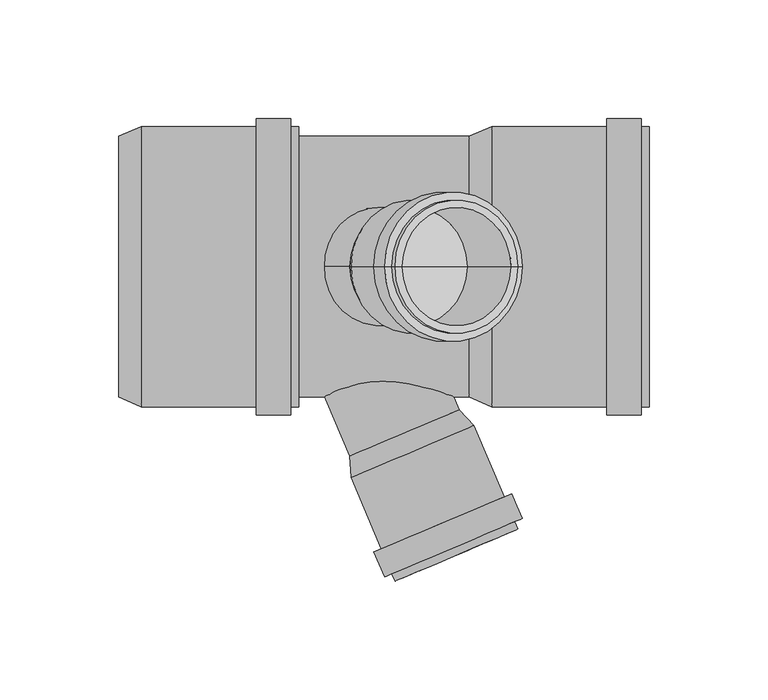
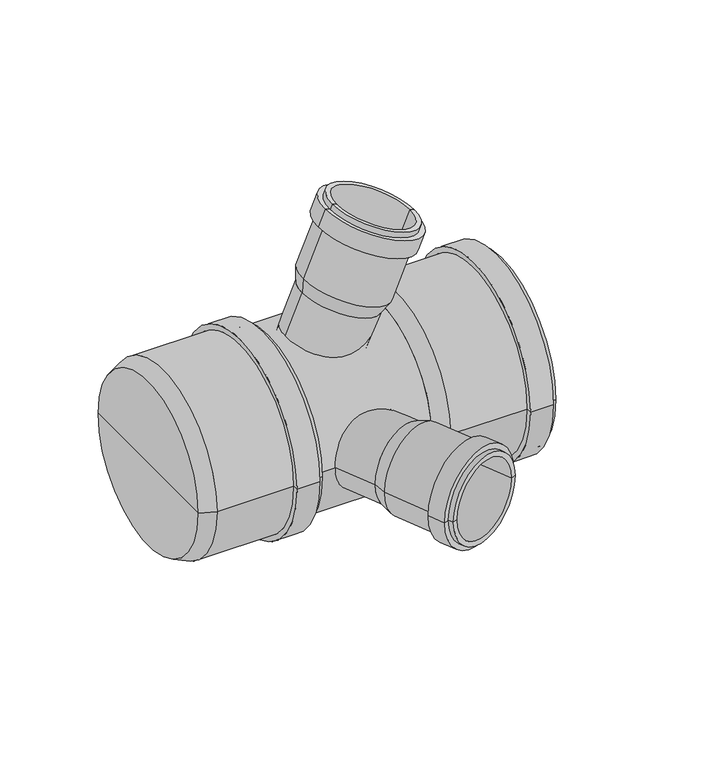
"""IFC4 building model written with IfcOpenShell, lengths in millimetres: pipe fitting geometry, pf_HTED : pf_HTED."""

from ifc_helpers import new_model, si_unit, point, frame, origin, origin_2d, place, context, project, spatial, polyline, circle_curve, trimmed, segment, composite_curve, outline, extrude, source, transform, mapped, element, save
from ifc_brep_helpers import plane_surface, cylinder_surface, revolved_surface, advanced_brep


def pipe_fitting_ae554451(model_context):
    return source(origin(), model_context, "Body", "SolidModel", [
        advanced_brep(
        [(52.7863333, 0.0, 60.3741916), (6.7610907, 0.0, 79.910748), (7.2287402, 0.0, 88.9463058), (58.961113, 0.0, 66.9872164), (29.773712, 0.0, 70.1424698), (77.5208416, 0.0, 110.7111969), (25.7884688, 0.0, 132.6702863), (28.6420338, 0.0, 131.4590198), (74.6672765, 0.0, 111.9224634), (76.1923557, 0.0, 107.5814804), (24.459983, 0.0, 129.5405698), (79.3220722, 0.0, 106.2529946), (21.3302665, 0.0, 130.8690557), (74.8677374, 0.0, 95.7592392), (16.8759316, 0.0, 120.3753003), (71.7380209, 0.0, 97.0877251), (20.0056481, 0.0, 119.0468145), (56.1075479, 0.0, 68.1984829), (10.0823052, 0.0, 87.7350393), (33.0949266, 0.0, 77.9667611)],
        [
            (0, 1, circle_curve(frame((29.773712, 0.0, 70.1424698), z_axis=(0.3907311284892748, 0.0, 0.9205048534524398), x_axis=(-0.9205048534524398, 0.0, 0.3907311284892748)), 25.0)),
            (1, 2),
            (2, 3, circle_curve(frame((33.0949266, 0.0, 77.9667611), z_axis=(-0.3907311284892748, 0.0, -0.9205048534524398), x_axis=(-0.9205048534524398, 0.0, 0.3907311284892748)), 28.1)),
            (3, 0),
            (1, 0, circle_curve(frame((29.773712, 0.0, 70.1424698), z_axis=(0.3907311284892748, 0.0, 0.9205048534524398), x_axis=(-0.9205048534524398, 0.0, 0.3907311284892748)), 25.0)),
            (3, 2, circle_curve(frame((33.0949266, 0.0, 77.9667611), z_axis=(-0.3907311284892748, 0.0, -0.9205048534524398), x_axis=(-0.9205048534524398, 0.0, 0.3907311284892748)), 28.1)),
            (4, 1),
            (0, 4),
            (5, 6, circle_curve(frame((51.6546552, 0.0, 121.6907416), z_axis=(0.3907311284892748, 0.0, 0.9205048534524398), x_axis=(-0.9205048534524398, 0.0, 0.3907311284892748)), 28.1)),
            (6, 7),
            (7, 8, circle_curve(frame((51.6546552, 0.0, 121.6907416), z_axis=(-0.3907311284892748, 0.0, -0.9205048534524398), x_axis=(-0.9205048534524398, 0.0, 0.3907311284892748)), 25.0)),
            (8, 5),
            (6, 5, circle_curve(frame((51.6546552, 0.0, 121.6907416), z_axis=(0.3907311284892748, 0.0, 0.9205048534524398), x_axis=(-0.9205048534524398, 0.0, 0.3907311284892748)), 28.1)),
            (8, 7, circle_curve(frame((51.6546552, 0.0, 121.6907416), z_axis=(-0.3907311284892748, 0.0, -0.9205048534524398), x_axis=(-0.9205048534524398, 0.0, 0.3907311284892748)), 25.0)),
            (9, 10, circle_curve(frame((50.3261693, 0.0, 118.5610251), z_axis=(0.3907311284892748, 0.0, 0.9205048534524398), x_axis=(-0.9205048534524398, 0.0, 0.3907311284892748)), 28.1)),
            (10, 6),
            (5, 9),
            (10, 9, circle_curve(frame((50.3261693, 0.0, 118.5610251), z_axis=(0.3907311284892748, 0.0, 0.9205048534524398), x_axis=(-0.9205048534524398, 0.0, 0.3907311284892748)), 28.1)),
            (11, 12, circle_curve(frame((50.3261693, 0.0, 118.5610251), z_axis=(0.3907311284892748, 0.0, 0.9205048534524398), x_axis=(-0.9205048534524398, 0.0, 0.3907311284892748)), 31.5)),
            (12, 10),
            (9, 11),
            (12, 11, circle_curve(frame((50.3261693, 0.0, 118.5610251), z_axis=(0.3907311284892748, 0.0, 0.9205048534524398), x_axis=(-0.9205048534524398, 0.0, 0.3907311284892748)), 31.5)),
            (13, 14, circle_curve(frame((45.8718345, 0.0, 108.0672698), z_axis=(0.3907311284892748, 0.0, 0.9205048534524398), x_axis=(-0.9205048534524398, 0.0, 0.3907311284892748)), 31.5)),
            (14, 12),
            (11, 13),
            (14, 13, circle_curve(frame((45.8718345, 0.0, 108.0672698), z_axis=(0.3907311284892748, 0.0, 0.9205048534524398), x_axis=(-0.9205048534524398, 0.0, 0.3907311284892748)), 31.5)),
            (15, 16, circle_curve(frame((45.8718345, 0.0, 108.0672698), z_axis=(0.3907311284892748, 0.0, 0.9205048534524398), x_axis=(-0.9205048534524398, 0.0, 0.3907311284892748)), 28.1)),
            (16, 14),
            (13, 15),
            (16, 15, circle_curve(frame((45.8718345, 0.0, 108.0672698), z_axis=(0.3907311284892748, 0.0, 0.9205048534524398), x_axis=(-0.9205048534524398, 0.0, 0.3907311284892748)), 28.1)),
            (2, 16),
            (15, 3),
            (17, 18, circle_curve(frame((33.0949266, 0.0, 77.9667611), z_axis=(0.3907311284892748, 0.0, 0.9205048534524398), x_axis=(-0.9205048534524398, 0.0, 0.3907311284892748)), 25.0)),
            (18, 19),
            (19, 17),
            (18, 17, circle_curve(frame((33.0949266, 0.0, 77.9667611), z_axis=(0.3907311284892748, 0.0, 0.9205048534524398), x_axis=(-0.9205048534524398, 0.0, 0.3907311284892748)), 25.0)),
            (7, 18),
            (17, 8),
        ],
        [
            revolved_surface(polyline([(7.2287402, 0.0, 88.9463058), (6.7610907, 0.0, 79.910748)]), (29.773712, 0.0, 70.1424698), (-0.3907311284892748, 0.0, -0.9205048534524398)),
            plane_surface(frame((29.773712, 0.0, 70.1424698), z_axis=(-0.3907311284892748, 0.0, -0.9205048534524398), x_axis=(-0.9205048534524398, 0.0, 0.3907311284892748))),
            plane_surface(frame((51.6546552, 0.0, 121.6907416), z_axis=(0.3907311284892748, 0.0, 0.9205048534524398), x_axis=(-0.9205048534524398, 0.0, 0.3907311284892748))),
            cylinder_surface(frame((29.773712, 0.0, 70.1424698), z_axis=(-0.3907311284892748, 0.0, -0.9205048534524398), x_axis=(-0.9205048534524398, 0.0, 0.3907311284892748)), 28.1),
            plane_surface(frame((50.3261693, 0.0, 118.5610251), z_axis=(0.3907311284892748, 0.0, 0.9205048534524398), x_axis=(-0.9205048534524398, 0.0, 0.3907311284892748))),
            cylinder_surface(frame((29.773712, 0.0, 70.1424698), z_axis=(-0.3907311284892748, 0.0, -0.9205048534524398), x_axis=(-0.9205048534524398, 0.0, 0.3907311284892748)), 31.5),
            plane_surface(frame((45.8718345, 0.0, 108.0672698), z_axis=(-0.3907311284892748, 0.0, -0.9205048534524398), x_axis=(-0.9205048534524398, 0.0, 0.3907311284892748))),
            plane_surface(frame((33.0949266, 0.0, 77.9667611), z_axis=(0.3907311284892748, 0.0, 0.9205048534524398), x_axis=(-0.9205048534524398, 0.0, 0.3907311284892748))),
            revolved_surface(polyline([(10.08230525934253, 0.0, 87.73503927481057), (28.642033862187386, 0.0, 131.45901981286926)]), (29.773712, 0.0, 70.1424698), (-0.3907311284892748, 0.0, -0.9205048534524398)),
        ],
        [
            (0, [[1, 2, 3, 4]]),
            (0, [[5, -4, 6, -2]]),
            (1, [[7, -1, 8]]),
            (1, [[-8, -5, -7]]),
            (2, [[9, 10, 11, 12]]),
            (2, [[13, -12, 14, -10]]),
            (3, [[15, 16, -9, 17]]),
            (3, [[18, -17, -13, -16]]),
            (4, [[19, 20, -15, 21]]),
            (4, [[22, -21, -18, -20]]),
            (5, [[23, 24, -19, 25]]),
            (5, [[26, -25, -22, -24]]),
            (6, [[27, 28, -23, 29]]),
            (6, [[30, -29, -26, -28]]),
            (3, [[-3, 31, -27, 32]]),
            (3, [[-6, -32, -30, -31]]),
            (7, [[33, 34, 35]]),
            (7, [[36, -35, -34]]),
            (8, [[-11, 37, -33, 38]]),
            (8, [[-14, -38, -36, -37]]),
        ],
    ),
        advanced_brep(
        [(6.7610907, -79.910748, 0.0), (52.7863333, -60.3741916, 0.0), (58.961113, -66.9872164, 0.0), (7.2287402, -88.9463058, 0.0), (29.773712, -70.1424698, 0.0), (25.7884688, -132.6702863, 0.0), (77.5208416, -110.7111969, 0.0), (74.6672765, -111.9224634, 0.0), (28.6420338, -131.4590198, 0.0), (24.459983, -129.5405698, 0.0), (76.1923557, -107.5814804, 0.0), (21.3302665, -130.8690557, 0.0), (79.3220722, -106.2529946, 0.0), (16.8759316, -120.3753003, 0.0), (74.8677374, -95.7592392, 0.0), (20.0056481, -119.0468145, 0.0), (71.7380209, -97.0877251, 0.0), (10.0823052, -87.7350393, 0.0), (56.1075479, -68.1984829, 0.0), (33.0949266, -77.9667611, 0.0)],
        [
            (0, 1, circle_curve(frame((29.773712, -70.1424698, 0.0), z_axis=(0.3907311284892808, -0.9205048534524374, 0.0), x_axis=(0.9205048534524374, 0.3907311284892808, 0.0)), 25.0)),
            (1, 2),
            (2, 3, circle_curve(frame((33.0949266, -77.9667611, 0.0), z_axis=(-0.3907311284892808, 0.9205048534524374, 0.0), x_axis=(0.9205048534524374, 0.3907311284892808, 0.0)), 28.1)),
            (3, 0),
            (1, 0, circle_curve(frame((29.773712, -70.1424698, 0.0), z_axis=(0.3907311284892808, -0.9205048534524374, 0.0), x_axis=(0.9205048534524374, 0.3907311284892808, 0.0)), 25.0)),
            (3, 2, circle_curve(frame((33.0949266, -77.9667611, 0.0), z_axis=(-0.3907311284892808, 0.9205048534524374, 0.0), x_axis=(0.9205048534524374, 0.3907311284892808, 0.0)), 28.1)),
            (4, 1),
            (0, 4),
            (5, 6, circle_curve(frame((51.6546552, -121.6907416, 0.0), z_axis=(0.3907311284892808, -0.9205048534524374, 0.0), x_axis=(0.9205048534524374, 0.3907311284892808, 0.0)), 28.1)),
            (6, 7),
            (7, 8, circle_curve(frame((51.6546552, -121.6907416, 0.0), z_axis=(-0.3907311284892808, 0.9205048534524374, 0.0), x_axis=(0.9205048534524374, 0.3907311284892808, 0.0)), 25.0)),
            (8, 5),
            (6, 5, circle_curve(frame((51.6546552, -121.6907416, 0.0), z_axis=(0.3907311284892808, -0.9205048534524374, 0.0), x_axis=(0.9205048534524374, 0.3907311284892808, 0.0)), 28.1)),
            (8, 7, circle_curve(frame((51.6546552, -121.6907416, 0.0), z_axis=(-0.3907311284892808, 0.9205048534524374, 0.0), x_axis=(0.9205048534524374, 0.3907311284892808, 0.0)), 25.0)),
            (9, 10, circle_curve(frame((50.3261693, -118.5610251, 0.0), z_axis=(0.3907311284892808, -0.9205048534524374, 0.0), x_axis=(0.9205048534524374, 0.3907311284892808, 0.0)), 28.1)),
            (10, 6),
            (5, 9),
            (10, 9, circle_curve(frame((50.3261693, -118.5610251, 0.0), z_axis=(0.3907311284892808, -0.9205048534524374, 0.0), x_axis=(0.9205048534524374, 0.3907311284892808, 0.0)), 28.1)),
            (11, 12, circle_curve(frame((50.3261693, -118.5610251, 0.0), z_axis=(0.3907311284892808, -0.9205048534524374, 0.0), x_axis=(0.9205048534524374, 0.3907311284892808, 0.0)), 31.5)),
            (12, 10),
            (9, 11),
            (12, 11, circle_curve(frame((50.3261693, -118.5610251, 0.0), z_axis=(0.3907311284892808, -0.9205048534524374, 0.0), x_axis=(0.9205048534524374, 0.3907311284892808, 0.0)), 31.5)),
            (13, 14, circle_curve(frame((45.8718345, -108.0672698, 0.0), z_axis=(0.3907311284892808, -0.9205048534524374, 0.0), x_axis=(0.9205048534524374, 0.3907311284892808, 0.0)), 31.5)),
            (14, 12),
            (11, 13),
            (14, 13, circle_curve(frame((45.8718345, -108.0672698, 0.0), z_axis=(0.3907311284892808, -0.9205048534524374, 0.0), x_axis=(0.9205048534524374, 0.3907311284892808, 0.0)), 31.5)),
            (15, 16, circle_curve(frame((45.8718345, -108.0672698, 0.0), z_axis=(0.3907311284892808, -0.9205048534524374, 0.0), x_axis=(0.9205048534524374, 0.3907311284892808, 0.0)), 28.1)),
            (16, 14),
            (13, 15),
            (16, 15, circle_curve(frame((45.8718345, -108.0672698, 0.0), z_axis=(0.3907311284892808, -0.9205048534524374, 0.0), x_axis=(0.9205048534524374, 0.3907311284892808, 0.0)), 28.1)),
            (2, 16),
            (15, 3),
            (17, 18, circle_curve(frame((33.0949266, -77.9667611, 0.0), z_axis=(0.3907311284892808, -0.9205048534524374, 0.0), x_axis=(0.9205048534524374, 0.3907311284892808, 0.0)), 25.0)),
            (18, 19),
            (19, 17),
            (18, 17, circle_curve(frame((33.0949266, -77.9667611, 0.0), z_axis=(0.3907311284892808, -0.9205048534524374, 0.0), x_axis=(0.9205048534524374, 0.3907311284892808, 0.0)), 25.0)),
            (7, 18),
            (17, 8),
        ],
        [
            revolved_surface(polyline([(58.961113, -66.9872164, 0.0), (52.7863333, -60.3741916, 0.0)]), (29.773712, -70.1424698, 0.0), (-0.3907311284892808, 0.9205048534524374, 0.0)),
            plane_surface(frame((29.773712, -70.1424698, 0.0), z_axis=(-0.3907311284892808, 0.9205048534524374, 0.0), x_axis=(0.9205048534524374, 0.3907311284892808, 0.0))),
            plane_surface(frame((51.6546552, -121.6907416, 0.0), z_axis=(0.3907311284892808, -0.9205048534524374, 0.0), x_axis=(0.9205048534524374, 0.3907311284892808, 0.0))),
            cylinder_surface(frame((29.773712, -70.1424698, 0.0), z_axis=(-0.3907311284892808, 0.9205048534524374, 0.0), x_axis=(0.9205048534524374, 0.3907311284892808, 0.0)), 28.1),
            plane_surface(frame((50.3261693, -118.5610251, 0.0), z_axis=(0.3907311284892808, -0.9205048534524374, 0.0), x_axis=(0.9205048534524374, 0.3907311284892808, 0.0))),
            cylinder_surface(frame((29.773712, -70.1424698, 0.0), z_axis=(-0.3907311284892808, 0.9205048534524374, 0.0), x_axis=(0.9205048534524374, 0.3907311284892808, 0.0)), 31.5),
            plane_surface(frame((45.8718345, -108.0672698, 0.0), z_axis=(-0.3907311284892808, 0.9205048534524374, 0.0), x_axis=(0.9205048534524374, 0.3907311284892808, 0.0))),
            plane_surface(frame((33.0949266, -77.9667611, 0.0), z_axis=(0.3907311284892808, -0.9205048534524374, 0.0), x_axis=(0.9205048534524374, 0.3907311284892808, 0.0))),
            revolved_surface(polyline([(56.10754793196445, -68.19848285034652, 0.0), (74.66727653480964, -111.92246338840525, 0.0)]), (29.773712, -70.1424698, 0.0), (-0.3907311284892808, 0.9205048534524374, 0.0)),
        ],
        [
            (0, [[1, 2, 3, 4]]),
            (0, [[5, -4, 6, -2]]),
            (1, [[7, -1, 8]]),
            (1, [[-8, -5, -7]]),
            (2, [[9, 10, 11, 12]]),
            (2, [[13, -12, 14, -10]]),
            (3, [[15, 16, -9, 17]]),
            (3, [[18, -17, -13, -16]]),
            (4, [[19, 20, -15, 21]]),
            (4, [[22, -21, -18, -20]]),
            (5, [[23, 24, -19, 25]]),
            (5, [[26, -25, -22, -24]]),
            (6, [[27, 28, -23, 29]]),
            (6, [[30, -29, -26, -28]]),
            (3, [[-3, 31, -27, 32]]),
            (3, [[-6, -32, -30, -31]]),
            (7, [[33, 34, 35]]),
            (7, [[36, -35, -34]]),
            (8, [[-11, 37, -33, 38]]),
            (8, [[-14, -38, -36, -37]]),
        ],
    ),
        advanced_brep(
        [(57.0, -55.0, 0.0), (57.0, 55.0, 0.0), (66.5, 59.1, 0.0), (66.5, -59.1, 0.0), (57.0, 0.0, 0.0), (133.0, -59.1, 0.0), (133.0, 59.1, 0.0), (133.0, 55.0, 0.0), (133.0, -55.0, 0.0), (129.6, -59.1, 0.0), (129.6, 59.1, 0.0), (129.6, -62.5, 0.0), (129.6, 62.5, 0.0), (115.1, -62.5, 0.0), (115.1, 62.5, 0.0), (115.1, -59.1, 0.0), (115.1, 59.1, 0.0), (66.5, -55.0, 0.0), (66.5, 55.0, 0.0), (66.5, 0.0, 0.0)],
        [
            (0, 1, circle_curve(frame((57.0, 0.0, 0.0), z_axis=(1.0, 0.0, 0.0), x_axis=(0.0, 1.0, 0.0)), 55.0)),
            (1, 2),
            (2, 3, circle_curve(frame((66.5, 0.0, 0.0), z_axis=(-1.0, 0.0, 0.0), x_axis=(0.0, 1.0, 0.0)), 59.1)),
            (3, 0),
            (1, 0, circle_curve(frame((57.0, 0.0, 0.0), z_axis=(1.0, 0.0, 0.0), x_axis=(0.0, 1.0, 0.0)), 55.0)),
            (3, 2, circle_curve(frame((66.5, 0.0, 0.0), z_axis=(-1.0, 0.0, 0.0), x_axis=(0.0, 1.0, 0.0)), 59.1)),
            (4, 1),
            (0, 4),
            (5, 6, circle_curve(frame((133.0, 0.0, 0.0), z_axis=(1.0, 0.0, 0.0), x_axis=(0.0, 1.0, 0.0)), 59.1)),
            (6, 7),
            (7, 8, circle_curve(frame((133.0, 0.0, 0.0), z_axis=(-1.0, 0.0, 0.0), x_axis=(0.0, 1.0, 0.0)), 55.0)),
            (8, 5),
            (6, 5, circle_curve(frame((133.0, 0.0, 0.0), z_axis=(1.0, 0.0, 0.0), x_axis=(0.0, 1.0, 0.0)), 59.1)),
            (8, 7, circle_curve(frame((133.0, 0.0, 0.0), z_axis=(-1.0, 0.0, 0.0), x_axis=(0.0, 1.0, 0.0)), 55.0)),
            (9, 10, circle_curve(frame((129.6, 0.0, 0.0), z_axis=(1.0, 0.0, 0.0), x_axis=(0.0, 1.0, 0.0)), 59.1)),
            (10, 6),
            (5, 9),
            (10, 9, circle_curve(frame((129.6, 0.0, 0.0), z_axis=(1.0, 0.0, 0.0), x_axis=(0.0, 1.0, 0.0)), 59.1)),
            (11, 12, circle_curve(frame((129.6, 0.0, 0.0), z_axis=(1.0, 0.0, 0.0), x_axis=(0.0, 1.0, 0.0)), 62.5)),
            (12, 10),
            (9, 11),
            (12, 11, circle_curve(frame((129.6, 0.0, 0.0), z_axis=(1.0, 0.0, 0.0), x_axis=(0.0, 1.0, 0.0)), 62.5)),
            (13, 14, circle_curve(frame((115.1, 0.0, 0.0), z_axis=(1.0, 0.0, 0.0), x_axis=(0.0, 1.0, 0.0)), 62.5)),
            (14, 12),
            (11, 13),
            (14, 13, circle_curve(frame((115.1, 0.0, 0.0), z_axis=(1.0, 0.0, 0.0), x_axis=(0.0, 1.0, 0.0)), 62.5)),
            (15, 16, circle_curve(frame((115.1, 0.0, 0.0), z_axis=(1.0, 0.0, 0.0), x_axis=(0.0, 1.0, 0.0)), 59.1)),
            (16, 14),
            (13, 15),
            (16, 15, circle_curve(frame((115.1, 0.0, 0.0), z_axis=(1.0, 0.0, 0.0), x_axis=(0.0, 1.0, 0.0)), 59.1)),
            (2, 16),
            (15, 3),
            (17, 18, circle_curve(frame((66.5, 0.0, 0.0), z_axis=(1.0, 0.0, 0.0), x_axis=(0.0, 1.0, 0.0)), 55.0)),
            (18, 19),
            (19, 17),
            (18, 17, circle_curve(frame((66.5, 0.0, 0.0), z_axis=(1.0, 0.0, 0.0), x_axis=(0.0, 1.0, 0.0)), 55.0)),
            (7, 18),
            (17, 8),
        ],
        [
            revolved_surface(polyline([(66.5, 59.1, 0.0), (57.0, 55.0, 0.0)]), (57.0, 0.0, 0.0), (-1.0, 0.0, 0.0)),
            plane_surface(frame((57.0, 0.0, 0.0), z_axis=(-1.0, 0.0, 0.0), x_axis=(0.0, 1.0, 0.0))),
            plane_surface(frame((133.0, 0.0, 0.0), z_axis=(1.0, 0.0, 0.0), x_axis=(0.0, 1.0, 0.0))),
            cylinder_surface(frame((57.0, 0.0, 0.0), z_axis=(-1.0, 0.0, 0.0), x_axis=(0.0, 1.0, 0.0)), 59.1),
            plane_surface(frame((129.6, 0.0, 0.0), z_axis=(1.0, 0.0, 0.0), x_axis=(0.0, 1.0, 0.0))),
            cylinder_surface(frame((57.0, 0.0, 0.0), z_axis=(-1.0, 0.0, 0.0), x_axis=(0.0, 1.0, 0.0)), 62.5),
            plane_surface(frame((115.1, 0.0, 0.0), z_axis=(-1.0, 0.0, 0.0), x_axis=(0.0, 1.0, 0.0))),
            plane_surface(frame((66.5, 0.0, 0.0), z_axis=(1.0, 0.0, 0.0), x_axis=(0.0, 1.0, 0.0))),
            revolved_surface(polyline([(66.5, 55.0, 0.0), (133.0, 55.0, 0.0)]), (57.0, 0.0, 0.0), (-1.0, 0.0, 0.0)),
        ],
        [
            (0, [[1, 2, 3, 4]]),
            (0, [[5, -4, 6, -2]]),
            (1, [[7, -1, 8]]),
            (1, [[-8, -5, -7]]),
            (2, [[9, 10, 11, 12]]),
            (2, [[13, -12, 14, -10]]),
            (3, [[15, 16, -9, 17]]),
            (3, [[18, -17, -13, -16]]),
            (4, [[19, 20, -15, 21]]),
            (4, [[22, -21, -18, -20]]),
            (5, [[23, 24, -19, 25]]),
            (5, [[26, -25, -22, -24]]),
            (6, [[27, 28, -23, 29]]),
            (6, [[30, -29, -26, -28]]),
            (3, [[-3, 31, -27, 32]]),
            (3, [[-6, -32, -30, -31]]),
            (7, [[33, 34, 35]]),
            (7, [[36, -35, -34]]),
            (8, [[-11, 37, -33, 38]]),
            (8, [[-14, -38, -36, -37]]),
        ],
    ),
        advanced_brep(
        [(-90.8, -55.0, 0.0), (-90.8, 55.0, 0.0), (-81.3, 59.1, 0.0), (-81.3, -59.1, 0.0), (-90.8, 0.0, 0.0), (-14.8, -59.1, 0.0), (-14.8, 59.1, 0.0), (-14.8, 55.0, 0.0), (-14.8, -55.0, 0.0), (-18.2, -59.1, 0.0), (-18.2, 59.1, 0.0), (-18.2, -62.5, 0.0), (-18.2, 62.5, 0.0), (-32.7, -62.5, 0.0), (-32.7, 62.5, 0.0), (-32.7, -59.1, 0.0), (-32.7, 59.1, 0.0), (-81.3, -55.0, 0.0), (-81.3, 55.0, 0.0), (-81.3, 0.0, 0.0)],
        [
            (0, 1, circle_curve(frame((-90.8, 0.0, 0.0), z_axis=(1.0, 0.0, 0.0), x_axis=(0.0, 1.0, 0.0)), 55.0)),
            (1, 2),
            (2, 3, circle_curve(frame((-81.3, 0.0, 0.0), z_axis=(-1.0, 0.0, 0.0), x_axis=(0.0, 1.0, 0.0)), 59.1)),
            (3, 0),
            (1, 0, circle_curve(frame((-90.8, 0.0, 0.0), z_axis=(1.0, 0.0, 0.0), x_axis=(0.0, 1.0, 0.0)), 55.0)),
            (3, 2, circle_curve(frame((-81.3, 0.0, 0.0), z_axis=(-1.0, 0.0, 0.0), x_axis=(0.0, 1.0, 0.0)), 59.1)),
            (4, 1),
            (0, 4),
            (5, 6, circle_curve(frame((-14.8, 0.0, 0.0), z_axis=(1.0, 0.0, 0.0), x_axis=(0.0, 1.0, 0.0)), 59.1)),
            (6, 7),
            (7, 8, circle_curve(frame((-14.8, 0.0, 0.0), z_axis=(-1.0, 0.0, 0.0), x_axis=(0.0, 1.0, 0.0)), 55.0)),
            (8, 5),
            (6, 5, circle_curve(frame((-14.8, 0.0, 0.0), z_axis=(1.0, 0.0, 0.0), x_axis=(0.0, 1.0, 0.0)), 59.1)),
            (8, 7, circle_curve(frame((-14.8, 0.0, 0.0), z_axis=(-1.0, 0.0, 0.0), x_axis=(0.0, 1.0, 0.0)), 55.0)),
            (9, 10, circle_curve(frame((-18.2, 0.0, 0.0), z_axis=(1.0, 0.0, 0.0), x_axis=(0.0, 1.0, 0.0)), 59.1)),
            (10, 6),
            (5, 9),
            (10, 9, circle_curve(frame((-18.2, 0.0, 0.0), z_axis=(1.0, 0.0, 0.0), x_axis=(0.0, 1.0, 0.0)), 59.1)),
            (11, 12, circle_curve(frame((-18.2, 0.0, 0.0), z_axis=(1.0, 0.0, 0.0), x_axis=(0.0, 1.0, 0.0)), 62.5)),
            (12, 10),
            (9, 11),
            (12, 11, circle_curve(frame((-18.2, 0.0, 0.0), z_axis=(1.0, 0.0, 0.0), x_axis=(0.0, 1.0, 0.0)), 62.5)),
            (13, 14, circle_curve(frame((-32.7, 0.0, 0.0), z_axis=(1.0, 0.0, 0.0), x_axis=(0.0, 1.0, 0.0)), 62.5)),
            (14, 12),
            (11, 13),
            (14, 13, circle_curve(frame((-32.7, 0.0, 0.0), z_axis=(1.0, 0.0, 0.0), x_axis=(0.0, 1.0, 0.0)), 62.5)),
            (15, 16, circle_curve(frame((-32.7, 0.0, 0.0), z_axis=(1.0, 0.0, 0.0), x_axis=(0.0, 1.0, 0.0)), 59.1)),
            (16, 14),
            (13, 15),
            (16, 15, circle_curve(frame((-32.7, 0.0, 0.0), z_axis=(1.0, 0.0, 0.0), x_axis=(0.0, 1.0, 0.0)), 59.1)),
            (2, 16),
            (15, 3),
            (17, 18, circle_curve(frame((-81.3, 0.0, 0.0), z_axis=(1.0, 0.0, 0.0), x_axis=(0.0, 1.0, 0.0)), 55.0)),
            (18, 19),
            (19, 17),
            (18, 17, circle_curve(frame((-81.3, 0.0, 0.0), z_axis=(1.0, 0.0, 0.0), x_axis=(0.0, 1.0, 0.0)), 55.0)),
            (7, 18),
            (17, 8),
        ],
        [
            revolved_surface(polyline([(-81.3, 59.1, 0.0), (-90.8, 55.0, 0.0)]), (-90.8, 0.0, 0.0), (-1.0, 0.0, 0.0)),
            plane_surface(frame((-90.8, 0.0, 0.0), z_axis=(-1.0, 0.0, 0.0), x_axis=(0.0, 1.0, 0.0))),
            plane_surface(frame((-14.8, 0.0, 0.0), z_axis=(1.0, 0.0, 0.0), x_axis=(0.0, 1.0, 0.0))),
            cylinder_surface(frame((-90.8, 0.0, 0.0), z_axis=(-1.0, 0.0, 0.0), x_axis=(0.0, 1.0, 0.0)), 59.1),
            plane_surface(frame((-18.2, 0.0, 0.0), z_axis=(1.0, 0.0, 0.0), x_axis=(0.0, 1.0, 0.0))),
            cylinder_surface(frame((-90.8, 0.0, 0.0), z_axis=(-1.0, 0.0, 0.0), x_axis=(0.0, 1.0, 0.0)), 62.5),
            plane_surface(frame((-32.7, 0.0, 0.0), z_axis=(-1.0, 0.0, 0.0), x_axis=(0.0, 1.0, 0.0))),
            plane_surface(frame((-81.3, 0.0, 0.0), z_axis=(1.0, 0.0, 0.0), x_axis=(0.0, 1.0, 0.0))),
            revolved_surface(polyline([(-81.3, 55.0, 0.0), (-14.799999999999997, 55.0, 0.0)]), (-90.8, 0.0, 0.0), (-1.0, 0.0, 0.0)),
        ],
        [
            (0, [[1, 2, 3, 4]]),
            (0, [[5, -4, 6, -2]]),
            (1, [[7, -1, 8]]),
            (1, [[-8, -5, -7]]),
            (2, [[9, 10, 11, 12]]),
            (2, [[13, -12, 14, -10]]),
            (3, [[15, 16, -9, 17]]),
            (3, [[18, -17, -13, -16]]),
            (4, [[19, 20, -15, 21]]),
            (4, [[22, -21, -18, -20]]),
            (5, [[23, 24, -19, 25]]),
            (5, [[26, -25, -22, -24]]),
            (6, [[27, 28, -23, 29]]),
            (6, [[30, -29, -26, -28]]),
            (3, [[-3, 31, -27, 32]]),
            (3, [[-6, -32, -30, -31]]),
            (7, [[33, 34, 35]]),
            (7, [[36, -35, -34]]),
            (8, [[-11, 37, -33, 38]]),
            (8, [[-14, -38, -36, -37]]),
        ],
    ),
        extrude(outline(composite_curve([segment(trimmed(circle_curve(origin_2d(), 25.0), [point((0.0, 25.0))], [point((0.0, -25.0))], False, "CARTESIAN"), True, "CONTINUOUS"), segment(trimmed(circle_curve(origin_2d(), 25.0), [point((0.0, -25.0))], [point((0.0, 25.0))], False, "CARTESIAN"), True, "CONTINUOUS")], self_intersect=False)), frame((0.0, 0.0, 0.0), z_axis=(0.3907311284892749, 0.0, 0.9205048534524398), x_axis=(0.0, -1.0, 0.0)), (0.0, 0.0, 1.0), 76.2),
        extrude(outline(composite_curve([segment(trimmed(circle_curve(origin_2d(), 25.0), [point((0.0, -25.0))], [point((0.0, 25.0))], False, "CARTESIAN"), True, "CONTINUOUS"), segment(trimmed(circle_curve(origin_2d(), 25.0), [point((0.0, 25.0))], [point((0.0, -25.0))], False, "CARTESIAN"), True, "CONTINUOUS")], self_intersect=False)), frame((29.773712, -70.1424698, 0.0), z_axis=(-0.39073112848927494, 0.9205048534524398, 0.0), x_axis=(0.0, 0.0, 1.0)), (0.0, 0.0, 1.0), 76.2),
        extrude(outline(composite_curve([segment(trimmed(circle_curve(origin_2d(), 55.0), [point((-55.0, 0.0))], [point((55.0, 0.0))], False, "CARTESIAN"), True, "CONTINUOUS"), segment(trimmed(circle_curve(origin_2d(), 55.0), [point((55.0, 0.0))], [point((-55.0, 0.0))], False, "CARTESIAN"), True, "CONTINUOUS")], self_intersect=False)), frame((-81.3, 0.0, 0.0), z_axis=(1.0, 0.0, 0.0), x_axis=(0.0, 1.0, 0.0)), (0.0, 0.0, 1.0), 138.3),
    ])


if __name__ == "__main__":
    model = new_model("IFC4")
    model_context = context("Model", 3, world=origin())
    ifc_project = project(units=[si_unit("LENGTHUNIT", "METRE", prefix="MILLI")], contexts=[model_context])
    site = spatial("IfcSite", under=ifc_project)
    building = spatial("IfcBuilding", under=site)
    placement = place(None, origin())
    pipe_fitting_shape = pipe_fitting_ae554451(model_context)
    element("IfcPipeFitting", 1, ObjectType="pf_HTED : pf_HTED", at=placement, inside=building, context=model_context, shape_type="MappedRepresentation", body=[
        mapped(pipe_fitting_shape, transform((0.0, 0.0, 0.0), x_axis=(1.0, 0.0, 0.0), y_axis=(0.0, 1.0, 0.0), z_axis=(0.0, 0.0, 1.0))),
    ])
    save(model, "model.ifc")
